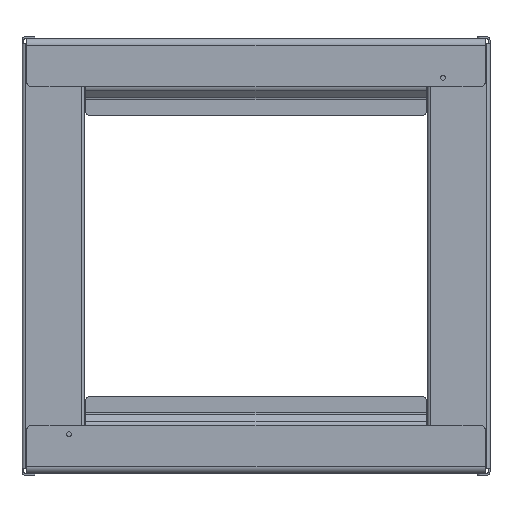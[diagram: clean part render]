
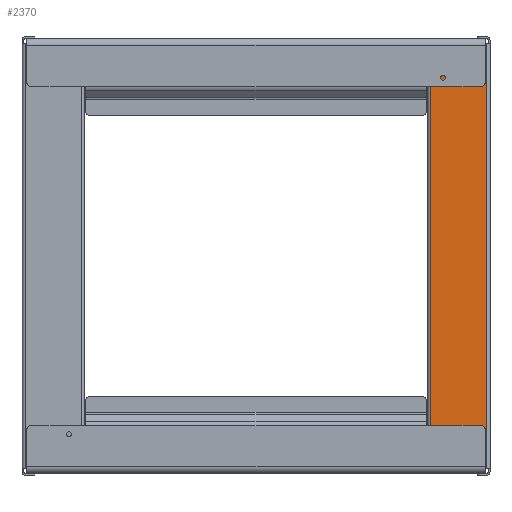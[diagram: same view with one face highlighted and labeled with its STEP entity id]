
A CAD part, left-side view. The second image highlights one B-rep face of the part: STEP entity #2370.
In plain terms, the highlighted planar face has unit normal (-1, 0, 0).
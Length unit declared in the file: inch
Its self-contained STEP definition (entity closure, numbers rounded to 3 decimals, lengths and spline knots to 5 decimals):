
#205=DIRECTION('',(0.,0.,1.));
#206=VECTOR('',#205,13.55);
#207=CARTESIAN_POINT('',(-5.2,0.049,-6.775));
#208=LINE('',#207,#206);
#223=DIRECTION('',(0.,1.,0.));
#224=VECTOR('',#223,0.079);
#225=CARTESIAN_POINT('',(-5.2,1.831,5.775));
#226=LINE('',#225,#224);
#227=DIRECTION('',(0.,0.,-1.));
#228=VECTOR('',#227,1.);
#229=CARTESIAN_POINT('',(-5.2,1.91,6.775));
#230=LINE('',#229,#228);
#231=DIRECTION('',(0.,1.,0.));
#232=VECTOR('',#231,1.861);
#233=CARTESIAN_POINT('',(-5.2,0.049,6.775));
#234=LINE('',#233,#232);
#235=DIRECTION('',(0.,-1.,0.));
#236=VECTOR('',#235,1.861);
#237=CARTESIAN_POINT('',(-5.2,1.91,-6.775));
#238=LINE('',#237,#236);
#239=DIRECTION('',(0.,0.,-1.));
#240=VECTOR('',#239,1.);
#241=CARTESIAN_POINT('',(-5.2,1.91,-5.775));
#242=LINE('',#241,#240);
#243=DIRECTION('',(0.,1.,0.));
#244=VECTOR('',#243,0.079);
#245=CARTESIAN_POINT('',(-5.2,1.831,-5.775));
#246=LINE('',#245,#244);
#261=DIRECTION('',(0.,0.,1.));
#262=VECTOR('',#261,11.55);
#263=CARTESIAN_POINT('',(-5.2,1.831,-5.775));
#264=LINE('',#263,#262);
#1713=CARTESIAN_POINT('',(-5.2,0.049,6.775));
#1714=CARTESIAN_POINT('',(-5.2,1.91,6.775));
#1715=VERTEX_POINT('',#1713);
#1716=VERTEX_POINT('',#1714);
#1717=CARTESIAN_POINT('',(-5.2,1.91,-6.775));
#1718=CARTESIAN_POINT('',(-5.2,0.049,-6.775));
#1719=VERTEX_POINT('',#1717);
#1720=VERTEX_POINT('',#1718);
#1869=CARTESIAN_POINT('',(-5.2,1.831,5.775));
#1870=CARTESIAN_POINT('',(-5.2,1.91,5.775));
#1871=VERTEX_POINT('',#1869);
#1872=VERTEX_POINT('',#1870);
#1877=CARTESIAN_POINT('',(-5.2,1.831,-5.775));
#1878=CARTESIAN_POINT('',(-5.2,1.91,-5.775));
#1879=VERTEX_POINT('',#1877);
#1880=VERTEX_POINT('',#1878);
#2348=CARTESIAN_POINT('',(-5.2,-0.06,-3.55552));
#2349=DIRECTION('',(-1.,0.,0.));
#2350=DIRECTION('',(0.,0.,1.));
#2351=AXIS2_PLACEMENT_3D('',#2348,#2349,#2350);
#2352=PLANE('',#2351);
#2354=ORIENTED_EDGE('',*,*,#2353,.T.);
#2356=ORIENTED_EDGE('',*,*,#2355,.T.);
#2358=ORIENTED_EDGE('',*,*,#2357,.F.);
#2360=ORIENTED_EDGE('',*,*,#2359,.F.);
#2361=ORIENTED_EDGE('',*,*,#2338,.F.);
#2363=ORIENTED_EDGE('',*,*,#2362,.F.);
#2365=ORIENTED_EDGE('',*,*,#2364,.F.);
#2367=ORIENTED_EDGE('',*,*,#2366,.F.);
#2368=EDGE_LOOP('',(#2354,#2356,#2358,#2360,#2361,#2363,#2365,#2367));
#2369=FACE_OUTER_BOUND('',#2368,.F.);
#2338=EDGE_CURVE('',#1720,#1715,#208,.T.);
#2353=EDGE_CURVE('',#1879,#1871,#264,.T.);
#2355=EDGE_CURVE('',#1871,#1872,#226,.T.);
#2357=EDGE_CURVE('',#1716,#1872,#230,.T.);
#2359=EDGE_CURVE('',#1715,#1716,#234,.T.);
#2362=EDGE_CURVE('',#1719,#1720,#238,.T.);
#2364=EDGE_CURVE('',#1880,#1719,#242,.T.);
#2366=EDGE_CURVE('',#1879,#1880,#246,.T.);
#2370=ADVANCED_FACE('',(#2369),#2352,.T.);
